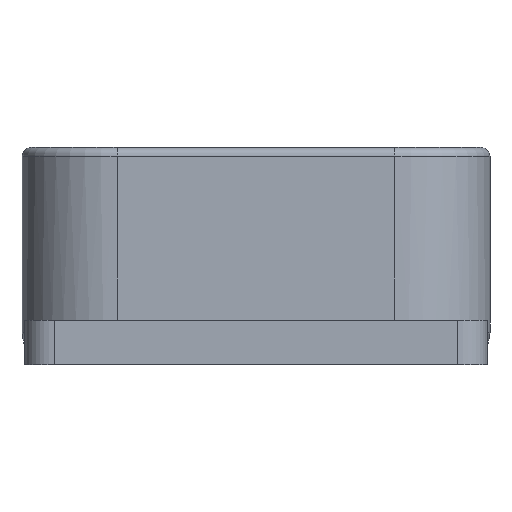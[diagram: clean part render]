
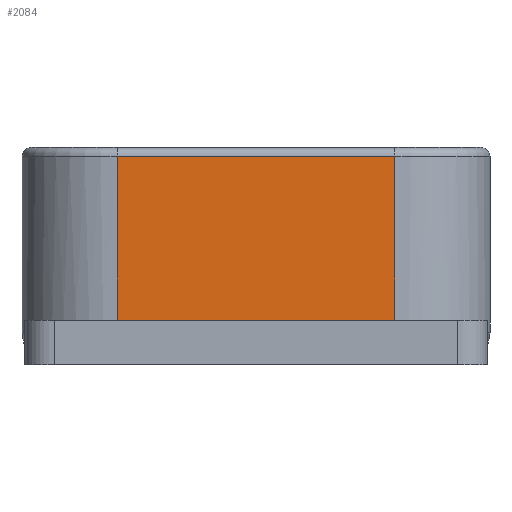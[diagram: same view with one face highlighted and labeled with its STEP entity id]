
A CAD part, left-side view. The second image highlights one B-rep face of the part: STEP entity #2084.
In plain terms, the highlighted planar face has unit normal (-1, 0, 0).
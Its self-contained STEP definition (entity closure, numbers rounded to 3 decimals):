
#66 = CYLINDRICAL_SURFACE('',#67,6.45);
#67 = AXIS2_PLACEMENT_3D('',#68,#69,#70);
#68 = CARTESIAN_POINT('',(3.4,3.4,-2.2));
#69 = DIRECTION('',(0.,0.,1.));
#70 = DIRECTION('',(0.,-1.,0.));
#1605 = CYLINDRICAL_SURFACE('',#1606,0.6);
#1606 = AXIS2_PLACEMENT_3D('',#1607,#1608,#1609);
#1607 = CARTESIAN_POINT('',(-2.45,22.2,11.9));
#1608 = DIRECTION('',(0.,-1.,0.));
#1609 = DIRECTION('',(-1.,-0.,0.));
#1968 = VERTEX_POINT('',#1969);
#1969 = CARTESIAN_POINT('',(-3.05,3.4,11.9));
#2036 = VERTEX_POINT('',#2037);
#2037 = CARTESIAN_POINT('',(-3.05,22.2,11.9));
#2059 = EDGE_CURVE('',#2036,#1968,#2060,.T.);
#2060 = SURFACE_CURVE('',#2061,(#2065,#2072),.PCURVE_S1.);
#2061 = LINE('',#2062,#2063);
#2062 = CARTESIAN_POINT('',(-3.05,22.2,11.9));
#2063 = VECTOR('',#2064,1.);
#2064 = DIRECTION('',(0.,-1.,0.));
#2065 = PCURVE('',#1605,#2066);
#2066 = DEFINITIONAL_REPRESENTATION('',(#2067),#2071);
#2067 = LINE('',#2068,#2069);
#2068 = CARTESIAN_POINT('',(-0.,0.));
#2069 = VECTOR('',#2070,1.);
#2070 = DIRECTION('',(-0.,1.));
#2071 = ( GEOMETRIC_REPRESENTATION_CONTEXT(2) 
PARAMETRIC_REPRESENTATION_CONTEXT() REPRESENTATION_CONTEXT('2D SPACE',''
  ) );
#2072 = PCURVE('',#2073,#2078);
#2073 = PLANE('',#2074);
#2074 = AXIS2_PLACEMENT_3D('',#2075,#2076,#2077);
#2075 = CARTESIAN_POINT('',(-3.05,28.65,-2.2));
#2076 = DIRECTION('',(1.,0.,-0.));
#2077 = DIRECTION('',(0.,-1.,0.));
#2078 = DEFINITIONAL_REPRESENTATION('',(#2079),#2083);
#2079 = LINE('',#2080,#2081);
#2080 = CARTESIAN_POINT('',(6.45,-14.1));
#2081 = VECTOR('',#2082,1.);
#2082 = DIRECTION('',(1.,0.));
#2083 = ( GEOMETRIC_REPRESENTATION_CONTEXT(2) 
PARAMETRIC_REPRESENTATION_CONTEXT() REPRESENTATION_CONTEXT('2D SPACE',''
  ) );
#2084 = ADVANCED_FACE('',(#2085),#2073,.F.);
#2085 = FACE_BOUND('',#2086,.F.);
#2086 = EDGE_LOOP('',(#2087,#2115,#2141,#2142));
#2087 = ORIENTED_EDGE('',*,*,#2088,.F.);
#2088 = EDGE_CURVE('',#2089,#2091,#2093,.T.);
#2089 = VERTEX_POINT('',#2090);
#2090 = CARTESIAN_POINT('',(-3.05,22.2,0.8));
#2091 = VERTEX_POINT('',#2092);
#2092 = CARTESIAN_POINT('',(-3.05,3.4,0.8));
#2093 = SURFACE_CURVE('',#2094,(#2098,#2104),.PCURVE_S1.);
#2094 = LINE('',#2095,#2096);
#2095 = CARTESIAN_POINT('',(-3.05,12.9,0.8));
#2096 = VECTOR('',#2097,1.);
#2097 = DIRECTION('',(0.,-1.,0.));
#2098 = PCURVE('',#2073,#2099);
#2099 = DEFINITIONAL_REPRESENTATION('',(#2100),#2103);
#2100 = B_SPLINE_CURVE_WITH_KNOTS('',1,(#2101,#2102),.UNSPECIFIED.,.F.,
  .F.,(2,2),(-9.3,9.5),.PIECEWISE_BEZIER_KNOTS.);
#2101 = CARTESIAN_POINT('',(6.45,-3.));
#2102 = CARTESIAN_POINT('',(25.25,-3.));
#2103 = ( GEOMETRIC_REPRESENTATION_CONTEXT(2) 
PARAMETRIC_REPRESENTATION_CONTEXT() REPRESENTATION_CONTEXT('2D SPACE',''
  ) );
#2104 = PCURVE('',#2105,#2110);
#2105 = PLANE('',#2106);
#2106 = AXIS2_PLACEMENT_3D('',#2107,#2108,#2109);
#2107 = CARTESIAN_POINT('',(-9.65,-2.85,0.8));
#2108 = DIRECTION('',(0.,0.,1.));
#2109 = DIRECTION('',(1.,0.,0.));
#2110 = DEFINITIONAL_REPRESENTATION('',(#2111),#2114);
#2111 = B_SPLINE_CURVE_WITH_KNOTS('',1,(#2112,#2113),.UNSPECIFIED.,.F.,
  .F.,(2,2),(-9.3,9.5),.PIECEWISE_BEZIER_KNOTS.);
#2112 = CARTESIAN_POINT('',(6.6,25.05));
#2113 = CARTESIAN_POINT('',(6.6,6.25));
#2114 = ( GEOMETRIC_REPRESENTATION_CONTEXT(2) 
PARAMETRIC_REPRESENTATION_CONTEXT() REPRESENTATION_CONTEXT('2D SPACE',''
  ) );
#2115 = ORIENTED_EDGE('',*,*,#2116,.T.);
#2116 = EDGE_CURVE('',#2089,#2036,#2117,.T.);
#2117 = SURFACE_CURVE('',#2118,(#2122,#2129),.PCURVE_S1.);
#2118 = LINE('',#2119,#2120);
#2119 = CARTESIAN_POINT('',(-3.05,22.2,-2.2));
#2120 = VECTOR('',#2121,1.);
#2121 = DIRECTION('',(0.,0.,1.));
#2122 = PCURVE('',#2073,#2123);
#2123 = DEFINITIONAL_REPRESENTATION('',(#2124),#2128);
#2124 = LINE('',#2125,#2126);
#2125 = CARTESIAN_POINT('',(6.45,0.));
#2126 = VECTOR('',#2127,1.);
#2127 = DIRECTION('',(0.,-1.));
#2128 = ( GEOMETRIC_REPRESENTATION_CONTEXT(2) 
PARAMETRIC_REPRESENTATION_CONTEXT() REPRESENTATION_CONTEXT('2D SPACE',''
  ) );
#2129 = PCURVE('',#2130,#2135);
#2130 = CYLINDRICAL_SURFACE('',#2131,6.45);
#2131 = AXIS2_PLACEMENT_3D('',#2132,#2133,#2134);
#2132 = CARTESIAN_POINT('',(3.4,22.2,-2.2));
#2133 = DIRECTION('',(0.,0.,1.));
#2134 = DIRECTION('',(-0.,1.,0.));
#2135 = DEFINITIONAL_REPRESENTATION('',(#2136),#2140);
#2136 = LINE('',#2137,#2138);
#2137 = CARTESIAN_POINT('',(1.571,0.));
#2138 = VECTOR('',#2139,1.);
#2139 = DIRECTION('',(0.,1.));
#2140 = ( GEOMETRIC_REPRESENTATION_CONTEXT(2) 
PARAMETRIC_REPRESENTATION_CONTEXT() REPRESENTATION_CONTEXT('2D SPACE',''
  ) );
#2141 = ORIENTED_EDGE('',*,*,#2059,.T.);
#2142 = ORIENTED_EDGE('',*,*,#2143,.F.);
#2143 = EDGE_CURVE('',#2091,#1968,#2144,.T.);
#2144 = SURFACE_CURVE('',#2145,(#2149,#2156),.PCURVE_S1.);
#2145 = LINE('',#2146,#2147);
#2146 = CARTESIAN_POINT('',(-3.05,3.4,-2.2));
#2147 = VECTOR('',#2148,1.);
#2148 = DIRECTION('',(0.,0.,1.));
#2149 = PCURVE('',#2073,#2150);
#2150 = DEFINITIONAL_REPRESENTATION('',(#2151),#2155);
#2151 = LINE('',#2152,#2153);
#2152 = CARTESIAN_POINT('',(25.25,0.));
#2153 = VECTOR('',#2154,1.);
#2154 = DIRECTION('',(0.,-1.));
#2155 = ( GEOMETRIC_REPRESENTATION_CONTEXT(2) 
PARAMETRIC_REPRESENTATION_CONTEXT() REPRESENTATION_CONTEXT('2D SPACE',''
  ) );
#2156 = PCURVE('',#66,#2157);
#2157 = DEFINITIONAL_REPRESENTATION('',(#2158),#2162);
#2158 = LINE('',#2159,#2160);
#2159 = CARTESIAN_POINT('',(-1.571,0.));
#2160 = VECTOR('',#2161,1.);
#2161 = DIRECTION('',(-0.,1.));
#2162 = ( GEOMETRIC_REPRESENTATION_CONTEXT(2) 
PARAMETRIC_REPRESENTATION_CONTEXT() REPRESENTATION_CONTEXT('2D SPACE',''
  ) );
